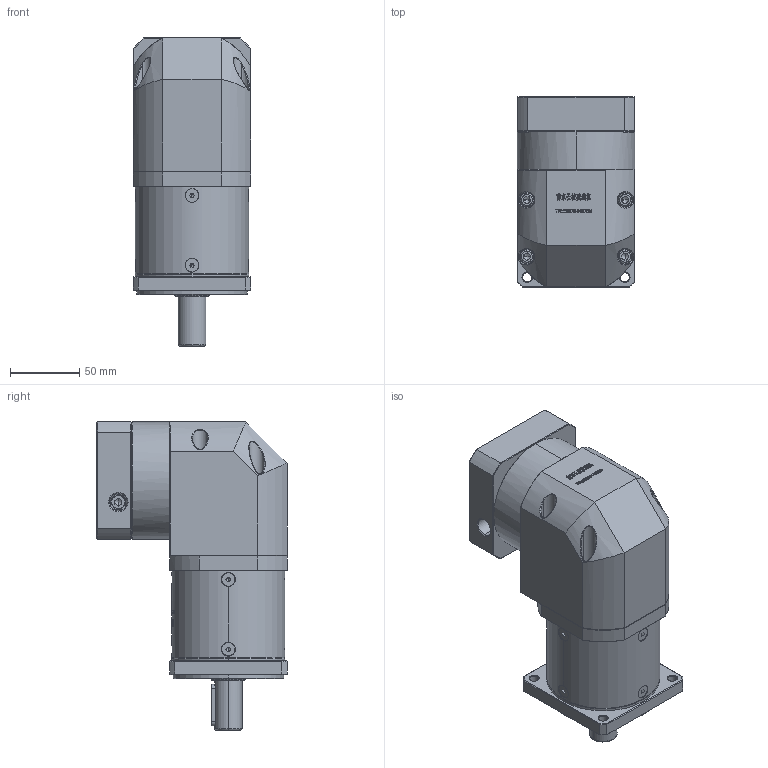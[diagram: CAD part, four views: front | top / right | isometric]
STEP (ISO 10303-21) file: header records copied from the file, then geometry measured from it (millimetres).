
FILE_DESCRIPTION (( 'STEP AP214' ), '1' );
FILE_NAME ('ZFR80-D20-L2-19-70-90-M6.step', '2022-05-08T12:05:41', ( '' ), ( 'Microsoft' ), 'SwSTEP 2.0', 'SolidWorks 2016', '' );
FILE_SCHEMA (( 'AUTOMOTIVE_DESIGN' ));
Length unit declared in the file: millimetre
Products named in the file (1): ZFR80-D20-L2-19-70-90-M6
Bounding box: 85 x 137.6 x 223 mm (x, y, z)
Volume: 1358639.2 mm3; surface area: 140372.2 mm2
Topology: 13 solids, 13 shells, 3060 faces, 8039 edges, 5127 vertices
Faces by surface type: plane 1619, bspline 624, cylinder 443, cone 360, torus 14
Entity records: 165109 total; most frequent: CARTESIAN_POINT 61713, ORIENTED_EDGE 15986, DIRECTION 12023, EDGE_CURVE 7993, VERTEX_POINT 5127, VECTOR 4969, LINE 4969, AXIS2_PLACEMENT_3D 3527
